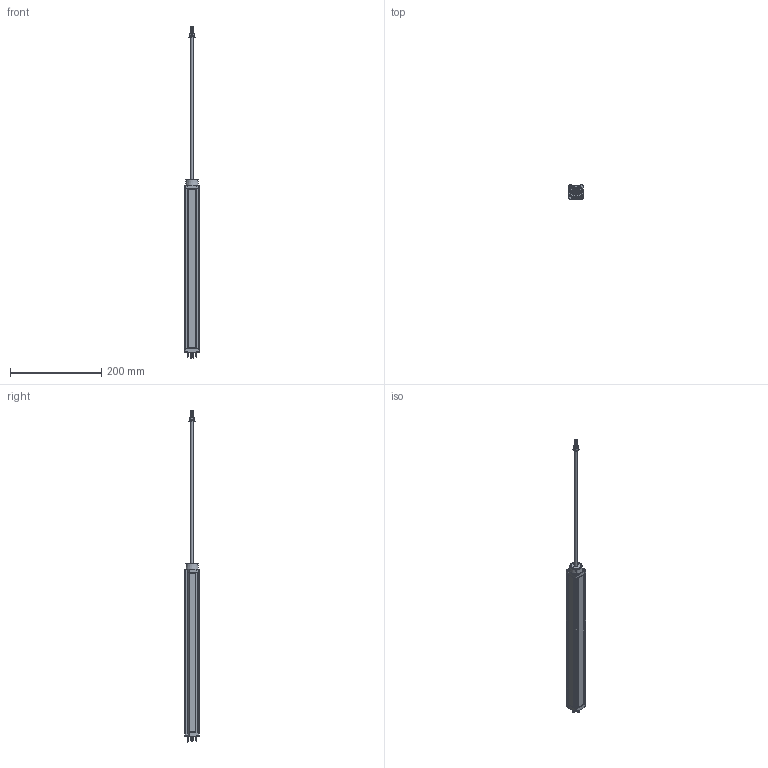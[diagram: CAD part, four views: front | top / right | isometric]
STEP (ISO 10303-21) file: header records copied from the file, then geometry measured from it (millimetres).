
FILE_DESCRIPTION(/* description */ (''),/* implementation_level */ '2;1');
FILE_NAME(/* name */ '',/* time_stamp */ '2019-10-11T17:41:00+08:00',/* author */ (''),/* organization */ (''),/* preprocessor_version */ 'ST-DEVELOPER v14',/* originating_system */ 'SIEMENS PLM Software NX 8.0',/* authorisation */ '');
FILE_SCHEMA (('AP203_CONFIGURATION_CONTROLLED_3D_DESIGN_OF_MECHANICAL_PARTS_AND_ASSEMBLIES_MIM_LF { 1 0 10303 403 2 1 2}'));
Length unit declared in the file: millimetre
Products named in the file (1): Admi24B86AD276sa
Bounding box: 31.8 x 31.8 x 728.45 mm (x, y, z)
Volume: 132257.9 mm3; surface area: 137494.7 mm2
Topology: 16 solids, 16 shells, 796 faces, 2128 edges, 1364 vertices
Faces by surface type: plane 476, cylinder 247, torus 29, sphere 20, cone 15, bspline 9
Full cylindrical faces by diameter (mm): 2.5 x6, 2.525 x2, 3 x4, 3.2 x1, 3.5 x4, 3.7 x2, 4 x1, 4.9 x22, 5.9 x4, 6 x1, 7.986 x1, 9.986 x1, 10 x1, 14.973 x1, 16.471 x1
Entity records: 34329 total; most frequent: CARTESIAN_POINT 15225, ORIENTED_EDGE 3940, DIRECTION 3855, EDGE_CURVE 1970, LINE 1373, VECTOR 1373, VERTEX_POINT 1298, AXIS2_PLACEMENT_3D 1241
